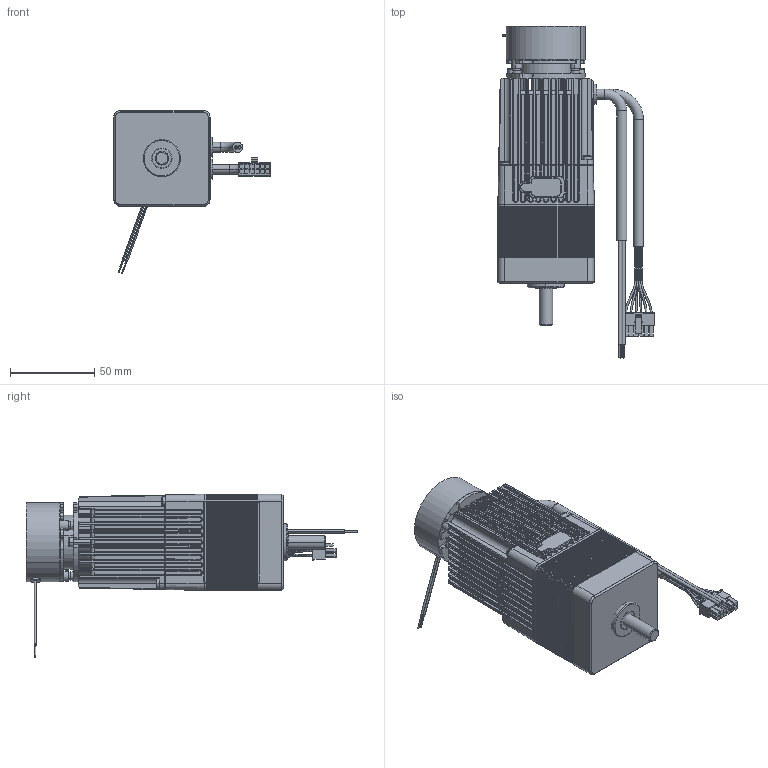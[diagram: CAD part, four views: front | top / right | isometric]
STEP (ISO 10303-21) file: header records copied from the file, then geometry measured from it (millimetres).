
FILE_DESCRIPTION((''),'2;1');
FILE_NAME('ENV_SIMP_STEP_TEMP','2012-10-24T',('VALJBL1'),('CROUZET-AUTOMATISMES'),'PRO/ENGINEER BY PARAMETRIC TECHNOLOGY CORPORATION, 2012090','PRO/ENGINEER BY PARAMETRIC TECHNOLOGY CORPORATION, 2012090','');
FILE_SCHEMA(('CONFIG_CONTROL_DESIGN'));
Products named in the file (1): ENV_SIMP_STEP_TEMP
Bounding box: 93.12 x 197.15 x 97.22 mm (x, y, z)
Surface area: 95437.1 mm2 (no closed solid volume)
Topology: 0 solids, 271 shells, 2834 faces, 8595 edges, 5864 vertices
Faces by surface type: cylinder 1300, plane 1270, torus 80, bspline 79, sphere 72, cone 33
Entity records: 100919 total; most frequent: CARTESIAN_POINT 28610, DIRECTION 14570, ORIENTED_EDGE 13542, EDGE_CURVE 8595, VERTEX_POINT 5864, VECTOR 4894, LINE 4894, AXIS2_PLACEMENT_3D 4838
